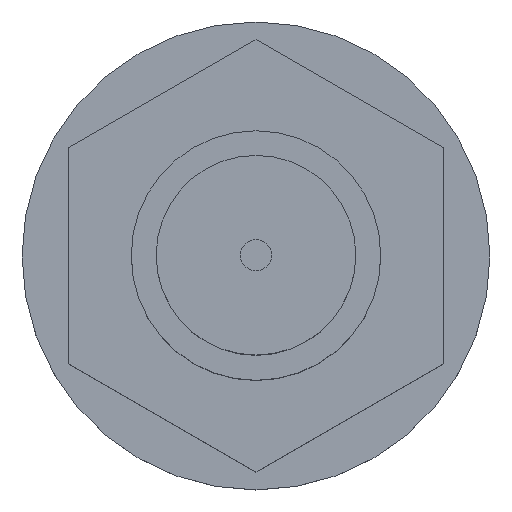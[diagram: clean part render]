
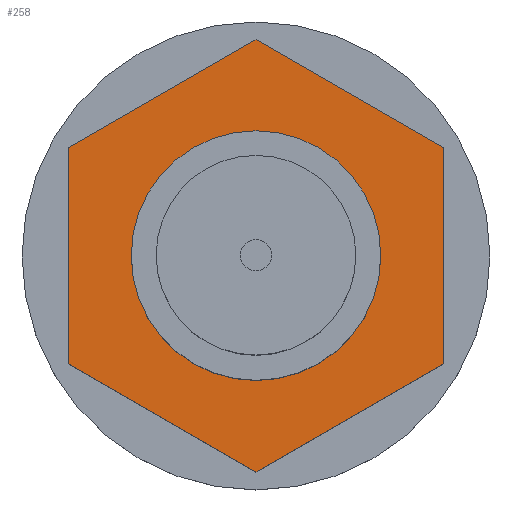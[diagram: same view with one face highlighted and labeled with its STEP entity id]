
A CAD part, top view. The second image highlights one B-rep face of the part: STEP entity #258.
In plain terms, the highlighted planar face has unit normal (0, 0, 1) as drawn and (-1, 0, 0) by its records, which use the part's own axes.
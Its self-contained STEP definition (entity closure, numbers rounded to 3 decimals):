
#249 = VERTEX_POINT ( 'NONE', #991 ) ;
#258 = ADVANCED_FACE ( 'NONE', ( #1067, #1066 ), #1065, .F. ) ;
#259 = EDGE_LOOP ( 'NONE', ( #260, #316, #319, #322, #325, #328 ) ) ;
#260 = ORIENTED_EDGE ( 'NONE', *, *, #261, .T. ) ;
#261 = EDGE_CURVE ( 'NONE', #262, #263, #1060, .T. ) ;
#262 = VERTEX_POINT ( 'NONE', #1056 ) ;
#263 = VERTEX_POINT ( 'NONE', #952 ) ;
#268 = EDGE_CURVE ( 'NONE', #269, #249, #949, .T. ) ;
#269 = VERTEX_POINT ( 'NONE', #940 ) ;
#316 = ORIENTED_EDGE ( 'NONE', *, *, #317, .T. ) ;
#317 = EDGE_CURVE ( 'NONE', #263, #318, #1440, .T. ) ;
#318 = VERTEX_POINT ( 'NONE', #1436 ) ;
#319 = ORIENTED_EDGE ( 'NONE', *, *, #320, .T. ) ;
#320 = EDGE_CURVE ( 'NONE', #318, #321, #1435, .T. ) ;
#321 = VERTEX_POINT ( 'NONE', #1431 ) ;
#322 = ORIENTED_EDGE ( 'NONE', *, *, #323, .T. ) ;
#323 = EDGE_CURVE ( 'NONE', #321, #324, #1430, .T. ) ;
#324 = VERTEX_POINT ( 'NONE', #1426 ) ;
#325 = ORIENTED_EDGE ( 'NONE', *, *, #326, .T. ) ;
#326 = EDGE_CURVE ( 'NONE', #324, #327, #1425, .T. ) ;
#327 = VERTEX_POINT ( 'NONE', #1421 ) ;
#328 = ORIENTED_EDGE ( 'NONE', *, *, #329, .T. ) ;
#329 = EDGE_CURVE ( 'NONE', #327, #262, #1420, .T. ) ;
#330 = EDGE_LOOP ( 'NONE', ( #331, #332 ) ) ;
#331 = ORIENTED_EDGE ( 'NONE', *, *, #268, .F. ) ;
#332 = ORIENTED_EDGE ( 'NONE', *, *, #333, .F. ) ;
#333 = EDGE_CURVE ( 'NONE', #249, #269, #1416, .T. ) ;
#940 = CARTESIAN_POINT ( 'NONE',  ( 10., 2., -3.464 ) ) ;
#941 = DIRECTION ( 'NONE',  ( 0., -0.5, 0.866 ) ) ;
#942 = DIRECTION ( 'NONE',  ( -1., 0., 0. ) ) ;
#943 = CARTESIAN_POINT ( 'NONE',  ( 10., 0., 0. ) ) ;
#944 = AXIS2_PLACEMENT_3D ( 'NONE', #943, #942, #941 ) ;
#949 = CIRCLE ( 'NONE', #944, 4. ) ;
#952 = CARTESIAN_POINT ( 'NONE',  ( 10., 3.464, -6. ) ) ;
#991 = CARTESIAN_POINT ( 'NONE',  ( 10., -2., 3.464 ) ) ;
#1056 = CARTESIAN_POINT ( 'NONE',  ( 10., 6.928, 0. ) ) ;
#1057 = DIRECTION ( 'NONE',  ( 0., -0.5, -0.866 ) ) ;
#1058 = VECTOR ( 'NONE', #1057, 1000. ) ;
#1059 = CARTESIAN_POINT ( 'NONE',  ( 10., 6.928, 0. ) ) ;
#1060 = LINE ( 'NONE', #1059, #1058 ) ;
#1061 = DIRECTION ( 'NONE',  ( 0., 0.5, -0.866 ) ) ;
#1062 = DIRECTION ( 'NONE',  ( 1., 0., 0. ) ) ;
#1063 = CARTESIAN_POINT ( 'NONE',  ( 10., 10.392, 6. ) ) ;
#1064 = AXIS2_PLACEMENT_3D ( 'NONE', #1063, #1062, #1061 ) ;
#1065 = PLANE ( 'NONE',  #1064 ) ;
#1066 = FACE_BOUND ( 'NONE', #330, .T. ) ;
#1067 = FACE_OUTER_BOUND ( 'NONE', #259, .T. ) ;
#1305 = DIRECTION ( 'NONE',  ( 0., -0.5, 0.866 ) ) ;
#1306 = DIRECTION ( 'NONE',  ( -1., 0., 0. ) ) ;
#1307 = AXIS2_PLACEMENT_3D ( 'NONE', #1415, #1306, #1305 ) ;
#1415 = CARTESIAN_POINT ( 'NONE',  ( 10., 0., 0. ) ) ;
#1416 = CIRCLE ( 'NONE', #1307, 4. ) ;
#1417 = DIRECTION ( 'NONE',  ( 0., 0.5, -0.866 ) ) ;
#1418 = VECTOR ( 'NONE', #1417, 1000. ) ;
#1419 = CARTESIAN_POINT ( 'NONE',  ( 10., 3.464, 6. ) ) ;
#1420 = LINE ( 'NONE', #1419, #1418 ) ;
#1421 = CARTESIAN_POINT ( 'NONE',  ( 10., 3.464, 6. ) ) ;
#1422 = DIRECTION ( 'NONE',  ( 0., 1., 0. ) ) ;
#1423 = VECTOR ( 'NONE', #1422, 1000. ) ;
#1424 = CARTESIAN_POINT ( 'NONE',  ( 10., -3.464, 6. ) ) ;
#1425 = LINE ( 'NONE', #1424, #1423 ) ;
#1426 = CARTESIAN_POINT ( 'NONE',  ( 10., -3.464, 6. ) ) ;
#1427 = DIRECTION ( 'NONE',  ( 0., 0.5, 0.866 ) ) ;
#1428 = VECTOR ( 'NONE', #1427, 1000. ) ;
#1429 = CARTESIAN_POINT ( 'NONE',  ( 10., -6.928, 0. ) ) ;
#1430 = LINE ( 'NONE', #1429, #1428 ) ;
#1431 = CARTESIAN_POINT ( 'NONE',  ( 10., -6.928, 0. ) ) ;
#1432 = DIRECTION ( 'NONE',  ( 0., -0.5, 0.866 ) ) ;
#1433 = VECTOR ( 'NONE', #1432, 1000. ) ;
#1434 = CARTESIAN_POINT ( 'NONE',  ( 10., -3.464, -6. ) ) ;
#1435 = LINE ( 'NONE', #1434, #1433 ) ;
#1436 = CARTESIAN_POINT ( 'NONE',  ( 10., -3.464, -6. ) ) ;
#1437 = DIRECTION ( 'NONE',  ( 0., -1., 0. ) ) ;
#1438 = VECTOR ( 'NONE', #1437, 1000. ) ;
#1439 = CARTESIAN_POINT ( 'NONE',  ( 10., 3.464, -6. ) ) ;
#1440 = LINE ( 'NONE', #1439, #1438 ) ;
